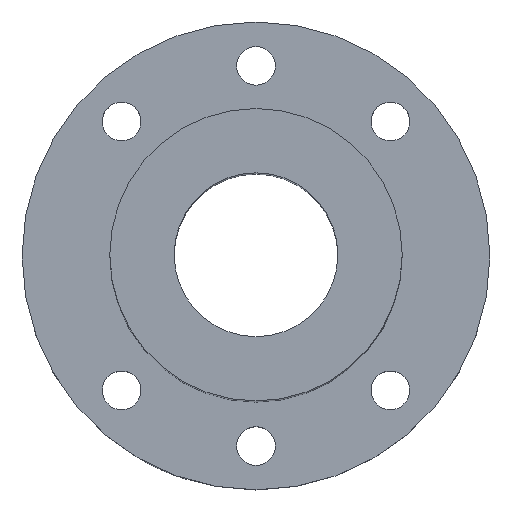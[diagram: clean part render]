
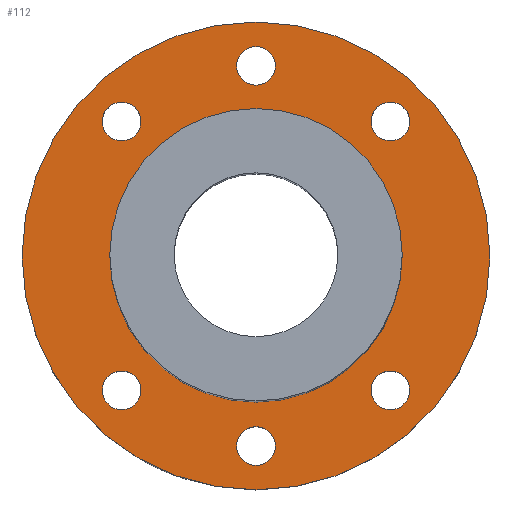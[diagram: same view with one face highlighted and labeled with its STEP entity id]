
A CAD part, top view. The second image highlights one B-rep face of the part: STEP entity #112.
In plain terms, the highlighted planar face has unit normal (0, 0, 1).
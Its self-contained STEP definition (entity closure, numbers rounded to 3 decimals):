
#99=PLANE('',#355);
#112=ADVANCED_FACE('',(#159,#160,#161,#162,#163,#164,#165,#166),#99,.T.);
#159=FACE_BOUND('',#203,.T.);
#160=FACE_BOUND('',#204,.T.);
#161=FACE_BOUND('',#205,.T.);
#162=FACE_BOUND('',#206,.T.);
#163=FACE_BOUND('',#207,.T.);
#164=FACE_BOUND('',#208,.T.);
#165=FACE_BOUND('',#209,.T.);
#166=FACE_BOUND('',#210,.T.);
#203=EDGE_LOOP('',(#247));
#204=EDGE_LOOP('',(#248));
#205=EDGE_LOOP('',(#249));
#206=EDGE_LOOP('',(#250));
#207=EDGE_LOOP('',(#251));
#208=EDGE_LOOP('',(#252));
#209=EDGE_LOOP('',(#253));
#210=EDGE_LOOP('',(#254));
#247=ORIENTED_EDGE('',*,*,#284,.T.);
#248=ORIENTED_EDGE('',*,*,#301,.T.);
#249=ORIENTED_EDGE('',*,*,#300,.F.);
#250=ORIENTED_EDGE('',*,*,#286,.T.);
#251=ORIENTED_EDGE('',*,*,#299,.F.);
#252=ORIENTED_EDGE('',*,*,#298,.F.);
#253=ORIENTED_EDGE('',*,*,#297,.T.);
#254=ORIENTED_EDGE('',*,*,#302,.T.);
#262=VERTEX_POINT('',#437);
#264=VERTEX_POINT('',#499);
#275=VERTEX_POINT('',#582);
#276=VERTEX_POINT('',#585);
#277=VERTEX_POINT('',#588);
#278=VERTEX_POINT('',#591);
#279=VERTEX_POINT('',#594);
#280=VERTEX_POINT('',#597);
#284=EDGE_CURVE('',#262,#262,#306,.T.);
#286=EDGE_CURVE('',#264,#264,#307,.T.);
#297=EDGE_CURVE('',#275,#275,#317,.T.);
#298=EDGE_CURVE('',#276,#276,#318,.T.);
#299=EDGE_CURVE('',#277,#277,#319,.T.);
#300=EDGE_CURVE('',#278,#278,#320,.T.);
#301=EDGE_CURVE('',#279,#279,#321,.T.);
#302=EDGE_CURVE('',#280,#280,#322,.T.);
#306=CIRCLE('',#327,40.);
#307=CIRCLE('',#329,25.);
#317=CIRCLE('',#343,3.3);
#318=CIRCLE('',#345,3.3);
#319=CIRCLE('',#347,3.3);
#320=CIRCLE('',#349,3.3);
#321=CIRCLE('',#351,3.3);
#322=CIRCLE('',#353,3.3);
#327=AXIS2_PLACEMENT_3D('',#436,#365,#366);
#329=AXIS2_PLACEMENT_3D('',#498,#369,#370);
#343=AXIS2_PLACEMENT_3D('',#581,#397,#398);
#345=AXIS2_PLACEMENT_3D('',#584,#401,#402);
#347=AXIS2_PLACEMENT_3D('',#587,#405,#406);
#349=AXIS2_PLACEMENT_3D('',#590,#409,#410);
#351=AXIS2_PLACEMENT_3D('',#593,#413,#414);
#353=AXIS2_PLACEMENT_3D('',#596,#417,#418);
#355=AXIS2_PLACEMENT_3D('',#599,#421,#422);
#365=DIRECTION('',(0.,0.,1.));
#366=DIRECTION('',(1.,0.,0.));
#369=DIRECTION('',(0.,0.,-1.));
#370=DIRECTION('',(1.,0.,0.));
#397=DIRECTION('',(0.,0.,-1.));
#398=DIRECTION('',(1.,0.,0.));
#401=DIRECTION('',(0.,0.,1.));
#402=DIRECTION('',(-1.,0.,0.));
#405=DIRECTION('',(0.,0.,1.));
#406=DIRECTION('',(1.,0.,0.));
#409=DIRECTION('',(0.,0.,1.));
#410=DIRECTION('',(1.,0.,0.));
#413=DIRECTION('',(0.,0.,-1.));
#414=DIRECTION('',(1.,0.,0.));
#417=DIRECTION('',(0.,0.,-1.));
#418=DIRECTION('',(-1.,0.,0.));
#421=DIRECTION('',(0.,0.,1.));
#422=DIRECTION('',(1.,0.,0.));
#436=CARTESIAN_POINT('',(0.,0.,12.));
#437=CARTESIAN_POINT('',(40.,0.,12.));
#498=CARTESIAN_POINT('',(0.,0.,12.));
#499=CARTESIAN_POINT('',(25.,0.,12.));
#581=CARTESIAN_POINT('',(-22.981,-22.981,12.));
#582=CARTESIAN_POINT('',(-19.681,-22.981,12.));
#584=CARTESIAN_POINT('',(22.981,-22.981,12.));
#585=CARTESIAN_POINT('',(19.681,-22.981,12.));
#587=CARTESIAN_POINT('',(-22.981,22.981,12.));
#588=CARTESIAN_POINT('',(-19.681,22.981,12.));
#590=CARTESIAN_POINT('',(0.,32.5,12.));
#591=CARTESIAN_POINT('',(3.3,32.5,12.));
#593=CARTESIAN_POINT('',(0.,-32.5,12.));
#594=CARTESIAN_POINT('',(3.3,-32.5,12.));
#596=CARTESIAN_POINT('',(22.981,22.981,12.));
#597=CARTESIAN_POINT('',(19.681,22.981,12.));
#599=CARTESIAN_POINT('',(0.,-16.25,12.));
